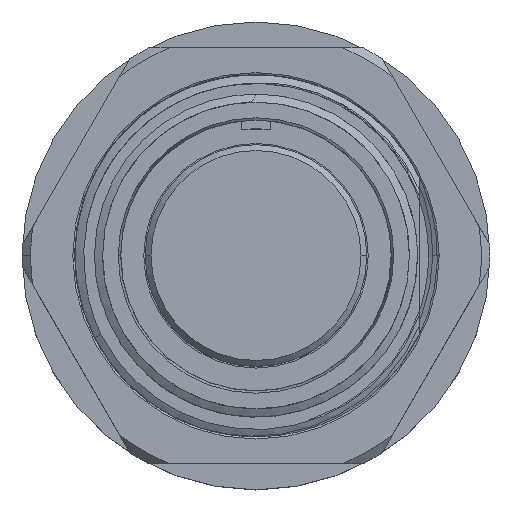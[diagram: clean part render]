
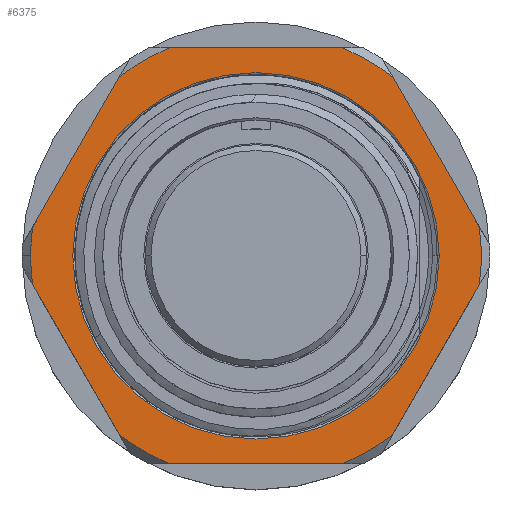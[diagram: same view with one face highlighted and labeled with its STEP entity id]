
A CAD part, top view. The second image highlights one B-rep face of the part: STEP entity #6375.
In plain terms, the highlighted planar face has unit normal (0, 0, 1).
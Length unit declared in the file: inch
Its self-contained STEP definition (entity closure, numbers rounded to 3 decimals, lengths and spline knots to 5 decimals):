
#97 = VERTEX_POINT ( 'NONE', #8829 ) ;
#218 = VERTEX_POINT ( 'NONE', #9589 ) ;
#472 = CARTESIAN_POINT ( 'NONE',  ( 0., 0., -0.59 ) ) ;
#506 = EDGE_CURVE ( 'NONE', #10149, #6592, #1018, .T. ) ;
#513 = DIRECTION ( 'NONE',  ( 1., 0., 0. ) ) ;
#562 = CARTESIAN_POINT ( 'NONE',  ( -0.6325, 0., -0.59 ) ) ;
#655 = CARTESIAN_POINT ( 'NONE',  ( 0., 0., -0.59 ) ) ;
#706 = CIRCLE ( 'NONE', #8364, 0.7775 ) ;
#727 = VERTEX_POINT ( 'NONE', #10696 ) ;
#811 = CIRCLE ( 'NONE', #16974, 0.7775 ) ;
#1018 = LINE ( 'NONE', #14588, #15640 ) ;
#1020 = AXIS2_PLACEMENT_3D ( 'NONE', #3288, #6748, #9483 ) ;
#1176 = ORIENTED_EDGE ( 'NONE', *, *, #6810, .F. ) ;
#1465 = DIRECTION ( 'NONE',  ( 0., 0., 1. ) ) ;
#1912 = CIRCLE ( 'NONE', #5878, 0.7775 ) ;
#2002 = DIRECTION ( 'NONE',  ( 0., 0., 1. ) ) ;
#2082 = DIRECTION ( 'NONE',  ( 1., 0., 0. ) ) ;
#2162 = DIRECTION ( 'NONE',  ( 0., 0., 1. ) ) ;
#2507 = VECTOR ( 'NONE', #6406, 39.37008 ) ;
#2571 = DIRECTION ( 'NONE',  ( -0.5, -0.866, 0. ) ) ;
#2690 = VERTEX_POINT ( 'NONE', #5603 ) ;
#2746 = CIRCLE ( 'NONE', #3881, 0.6325 ) ;
#2800 = LINE ( 'NONE', #16283, #4775 ) ;
#3074 = CARTESIAN_POINT ( 'NONE',  ( -0.2995, 0.7175, -0.59 ) ) ;
#3288 = CARTESIAN_POINT ( 'NONE',  ( 0., 0.6325, -0.59 ) ) ;
#3331 = AXIS2_PLACEMENT_3D ( 'NONE', #472, #2002, #7597 ) ;
#3556 = FACE_BOUND ( 'NONE', #9785, .T. ) ;
#3600 = CIRCLE ( 'NONE', #3331, 0.6325 ) ;
#3881 = AXIS2_PLACEMENT_3D ( 'NONE', #4695, #6026, #16927 ) ;
#3891 = DIRECTION ( 'NONE',  ( 1., 0., 0. ) ) ;
#3906 = DIRECTION ( 'NONE',  ( 1., 0., 0. ) ) ;
#3942 = CARTESIAN_POINT ( 'NONE',  ( 0., 0., -0.59 ) ) ;
#4122 = VERTEX_POINT ( 'NONE', #14754 ) ;
#4188 = AXIS2_PLACEMENT_3D ( 'NONE', #15302, #1465, #4230 ) ;
#4230 = DIRECTION ( 'NONE',  ( 1., 0., 0. ) ) ;
#4298 = EDGE_LOOP ( 'NONE', ( #5458, #17511, #13458, #13419, #13268, #8738, #7133, #6450, #14855, #12269, #15922, #1176, #12755 ) ) ;
#4312 = EDGE_CURVE ( 'NONE', #5093, #6732, #6660, .T. ) ;
#4407 = EDGE_CURVE ( 'NONE', #10149, #218, #12029, .T. ) ;
#4695 = CARTESIAN_POINT ( 'NONE',  ( 0., 0., -0.59 ) ) ;
#4775 = VECTOR ( 'NONE', #16375, 39.37008 ) ;
#4834 = CARTESIAN_POINT ( 'NONE',  ( 0.6325, 0., -0.59 ) ) ;
#4873 = EDGE_CURVE ( 'NONE', #14313, #6592, #706, .T. ) ;
#5093 = VERTEX_POINT ( 'NONE', #3074 ) ;
#5328 = VERTEX_POINT ( 'NONE', #9248 ) ;
#5335 = CARTESIAN_POINT ( 'NONE',  ( 0., 0., -0.59 ) ) ;
#5458 = ORIENTED_EDGE ( 'NONE', *, *, #11142, .F. ) ;
#5603 = CARTESIAN_POINT ( 'NONE',  ( 0.47162, -0.61812, -0.59 ) ) ;
#5626 = CIRCLE ( 'NONE', #10447, 0.7775 ) ;
#5733 = ORIENTED_EDGE ( 'NONE', *, *, #8543, .F. ) ;
#5802 = VERTEX_POINT ( 'NONE', #562 ) ;
#5878 = AXIS2_PLACEMENT_3D ( 'NONE', #3942, #8015, #11833 ) ;
#6026 = DIRECTION ( 'NONE',  ( 0., 0., 1. ) ) ;
#6090 = DIRECTION ( 'NONE',  ( 0., 0., 1. ) ) ;
#6326 = LINE ( 'NONE', #6582, #11565 ) ;
#6375 = ADVANCED_FACE ( 'NONE', ( #3556, #9053 ), #14361, .F. ) ;
#6406 = DIRECTION ( 'NONE',  ( 1., 0., 0. ) ) ;
#6450 = ORIENTED_EDGE ( 'NONE', *, *, #15685, .T. ) ;
#6582 = CARTESIAN_POINT ( 'NONE',  ( 0.89525, 0.11562, -0.59 ) ) ;
#6592 = VERTEX_POINT ( 'NONE', #14730 ) ;
#6660 = CIRCLE ( 'NONE', #16574, 0.7775 ) ;
#6732 = VERTEX_POINT ( 'NONE', #13487 ) ;
#6748 = DIRECTION ( 'NONE',  ( 0., 0., -1. ) ) ;
#6810 = EDGE_CURVE ( 'NONE', #17233, #97, #7927, .T. ) ;
#7133 = ORIENTED_EDGE ( 'NONE', *, *, #9940, .F. ) ;
#7227 = AXIS2_PLACEMENT_3D ( 'NONE', #12762, #14180, #513 ) ;
#7597 = DIRECTION ( 'NONE',  ( 1., 0., 0. ) ) ;
#7737 = CARTESIAN_POINT ( 'NONE',  ( 0., 0.7175, -0.59 ) ) ;
#7927 = LINE ( 'NONE', #14905, #8964 ) ;
#8015 = DIRECTION ( 'NONE',  ( 0., 0., 1. ) ) ;
#8085 = VERTEX_POINT ( 'NONE', #11203 ) ;
#8364 = AXIS2_PLACEMENT_3D ( 'NONE', #5335, #2162, #3906 ) ;
#8423 = CIRCLE ( 'NONE', #4188, 0.7775 ) ;
#8543 = EDGE_CURVE ( 'NONE', #12429, #5802, #2746, .T. ) ;
#8738 = ORIENTED_EDGE ( 'NONE', *, *, #4312, .T. ) ;
#8808 = CARTESIAN_POINT ( 'NONE',  ( -0.89525, 0.11562, -0.59 ) ) ;
#8829 = CARTESIAN_POINT ( 'NONE',  ( -0.2995, -0.7175, -0.59 ) ) ;
#8964 = VECTOR ( 'NONE', #13318, 39.37008 ) ;
#9053 = FACE_OUTER_BOUND ( 'NONE', #4298, .T. ) ;
#9068 = EDGE_CURVE ( 'NONE', #5802, #12429, #3600, .T. ) ;
#9248 = CARTESIAN_POINT ( 'NONE',  ( -0.47162, -0.61812, -0.59 ) ) ;
#9287 = EDGE_CURVE ( 'NONE', #4122, #8085, #1912, .T. ) ;
#9483 = DIRECTION ( 'NONE',  ( -1., 0., 0. ) ) ;
#9589 = CARTESIAN_POINT ( 'NONE',  ( 0.2995, 0.7175, -0.59 ) ) ;
#9785 = EDGE_LOOP ( 'NONE', ( #5733, #15739 ) ) ;
#9926 = EDGE_CURVE ( 'NONE', #5328, #97, #8423, .T. ) ;
#9940 = EDGE_CURVE ( 'NONE', #727, #6732, #2800, .T. ) ;
#10149 = VERTEX_POINT ( 'NONE', #12551 ) ;
#10150 = DIRECTION ( 'NONE',  ( 1., 0., 0. ) ) ;
#10447 = AXIS2_PLACEMENT_3D ( 'NONE', #10801, #14697, #3891 ) ;
#10696 = CARTESIAN_POINT ( 'NONE',  ( -0.77112, 0.09938, -0.59 ) ) ;
#10801 = CARTESIAN_POINT ( 'NONE',  ( 0., 0., -0.59 ) ) ;
#11129 = CARTESIAN_POINT ( 'NONE',  ( 0., 0., -0.59 ) ) ;
#11142 = EDGE_CURVE ( 'NONE', #14313, #2690, #6326, .T. ) ;
#11203 = CARTESIAN_POINT ( 'NONE',  ( -0.77112, -0.09938, -0.59 ) ) ;
#11565 = VECTOR ( 'NONE', #2571, 39.37008 ) ;
#11648 = DIRECTION ( 'NONE',  ( -0.5, 0.866, 0. ) ) ;
#11833 = DIRECTION ( 'NONE',  ( 1., 0., 0. ) ) ;
#12029 = CIRCLE ( 'NONE', #7227, 0.7775 ) ;
#12269 = ORIENTED_EDGE ( 'NONE', *, *, #12298, .F. ) ;
#12298 = EDGE_CURVE ( 'NONE', #5328, #8085, #14028, .T. ) ;
#12429 = VERTEX_POINT ( 'NONE', #4834 ) ;
#12551 = CARTESIAN_POINT ( 'NONE',  ( 0.47162, 0.61812, -0.59 ) ) ;
#12693 = CARTESIAN_POINT ( 'NONE',  ( 0.2995, -0.7175, -0.59 ) ) ;
#12755 = ORIENTED_EDGE ( 'NONE', *, *, #16784, .T. ) ;
#12762 = CARTESIAN_POINT ( 'NONE',  ( 0., 0., -0.59 ) ) ;
#13043 = LINE ( 'NONE', #7737, #2507 ) ;
#13268 = ORIENTED_EDGE ( 'NONE', *, *, #17560, .F. ) ;
#13318 = DIRECTION ( 'NONE',  ( -1., 0., 0. ) ) ;
#13419 = ORIENTED_EDGE ( 'NONE', *, *, #4407, .T. ) ;
#13458 = ORIENTED_EDGE ( 'NONE', *, *, #506, .F. ) ;
#13487 = CARTESIAN_POINT ( 'NONE',  ( -0.47162, 0.61812, -0.59 ) ) ;
#13523 = DIRECTION ( 'NONE',  ( 0.5, -0.866, 0. ) ) ;
#14028 = LINE ( 'NONE', #8808, #16395 ) ;
#14180 = DIRECTION ( 'NONE',  ( 0., 0., 1. ) ) ;
#14313 = VERTEX_POINT ( 'NONE', #15627 ) ;
#14361 = PLANE ( 'NONE',  #1020 ) ;
#14588 = CARTESIAN_POINT ( 'NONE',  ( 0.34749, 0.83313, -0.59 ) ) ;
#14697 = DIRECTION ( 'NONE',  ( 0., 0., 1. ) ) ;
#14730 = CARTESIAN_POINT ( 'NONE',  ( 0.77112, 0.09938, -0.59 ) ) ;
#14754 = CARTESIAN_POINT ( 'NONE',  ( -0.7775, 0., -0.59 ) ) ;
#14855 = ORIENTED_EDGE ( 'NONE', *, *, #9287, .T. ) ;
#14905 = CARTESIAN_POINT ( 'NONE',  ( 0., -0.7175, -0.59 ) ) ;
#15302 = CARTESIAN_POINT ( 'NONE',  ( 0., 0., -0.59 ) ) ;
#15627 = CARTESIAN_POINT ( 'NONE',  ( 0.77112, -0.09938, -0.59 ) ) ;
#15640 = VECTOR ( 'NONE', #13523, 39.37008 ) ;
#15685 = EDGE_CURVE ( 'NONE', #727, #4122, #5626, .T. ) ;
#15739 = ORIENTED_EDGE ( 'NONE', *, *, #9068, .F. ) ;
#15922 = ORIENTED_EDGE ( 'NONE', *, *, #9926, .T. ) ;
#16283 = CARTESIAN_POINT ( 'NONE',  ( -0.34749, 0.83313, -0.59 ) ) ;
#16375 = DIRECTION ( 'NONE',  ( 0.5, 0.866, 0. ) ) ;
#16395 = VECTOR ( 'NONE', #11648, 39.37008 ) ;
#16535 = DIRECTION ( 'NONE',  ( 0., 0., 1. ) ) ;
#16574 = AXIS2_PLACEMENT_3D ( 'NONE', #655, #6090, #2082 ) ;
#16784 = EDGE_CURVE ( 'NONE', #17233, #2690, #811, .T. ) ;
#16927 = DIRECTION ( 'NONE',  ( 1., 0., 0. ) ) ;
#16974 = AXIS2_PLACEMENT_3D ( 'NONE', #11129, #16535, #10150 ) ;
#17233 = VERTEX_POINT ( 'NONE', #12693 ) ;
#17511 = ORIENTED_EDGE ( 'NONE', *, *, #4873, .T. ) ;
#17560 = EDGE_CURVE ( 'NONE', #5093, #218, #13043, .T. ) ;
